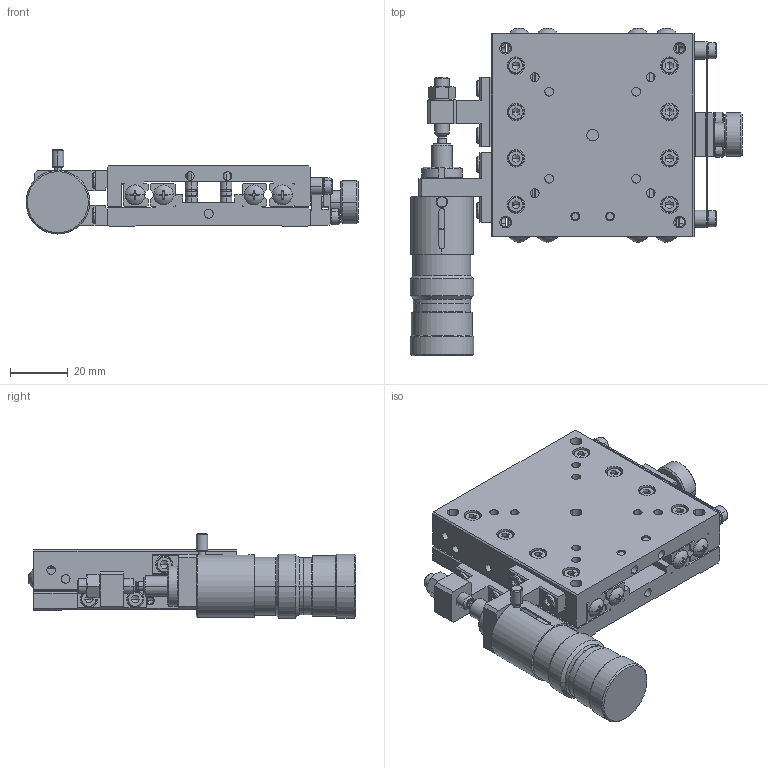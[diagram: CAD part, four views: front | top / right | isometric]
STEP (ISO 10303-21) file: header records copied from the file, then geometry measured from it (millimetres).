
FILE_DESCRIPTION (( 'STEP AP214' ), '1' );
FILE_NAME ('XM07A-S3Z-CL.STEP', '2009-05-11T05:38:44', ( ' ' ), ( ' ' ), 'SwSTEP 2.0', 'SolidWorks 2008', '' );
FILE_SCHEMA (( 'AUTOMOTIVE_DESIGN' ));
Length unit declared in the file: millimetre
Products named in the file (3): XM07A-S3Z-CL; 001490-1023(3D)-11; 001490-1011(3D)-11
Assembly tree (2 placements, depth 2):
  XM07A-S3Z-CL
    001490-1023(3D)-11
    001490-1011(3D)-11
Bounding box: 114.5 x 112.87 x 29 mm (x, y, z)
Volume: 109668.4 mm3; surface area: 52912.7 mm2
Topology: 2 solids, 43 shells, 1902 faces, 4549 edges, 2724 vertices
Faces by surface type: plane 889, cylinder 581, cone 398, sphere 18, torus 16
Entity records: 55384 total; most frequent: CARTESIAN_POINT 10536, DIRECTION 9924, ORIENTED_EDGE 8910, EDGE_CURVE 4455, AXIS2_PLACEMENT_3D 3785, VERTEX_POINT 2724, VECTOR 2354, LINE 2354
